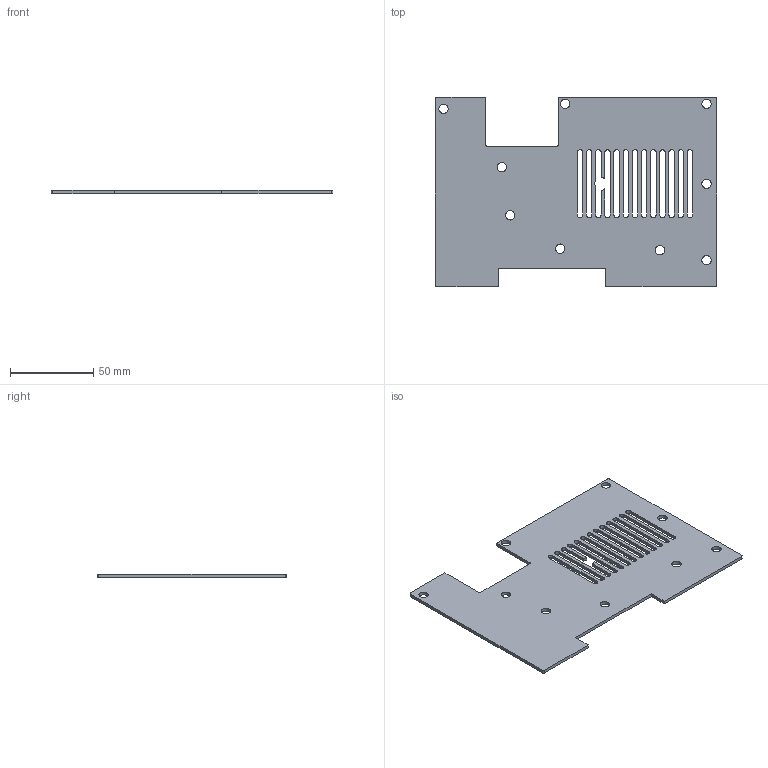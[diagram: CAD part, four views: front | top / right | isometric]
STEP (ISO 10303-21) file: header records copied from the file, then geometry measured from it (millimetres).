
FILE_DESCRIPTION(('Open CASCADE Model'),'2;1');
FILE_NAME('Open CASCADE Shape Model','2026-11-10T13:03:27',('Author'),( 'Open CASCADE'),'Open CASCADE STEP processor 7.7','Open CASCADE 7.7' ,'Unknown');
FILE_SCHEMA(('AUTOMOTIVE_DESIGN { 1 0 10303 214 1 1 1 1 }'));
Length unit declared in the file: millimetre
Products named in the file (1): Open CASCADE STEP translator 7.7 4
Bounding box: 169.3 x 113.95 x 2 mm (x, y, z)
Volume: 30676.9 mm3; surface area: 34487 mm2
Topology: 1 solids, 1 shells, 139 faces, 411 edges, 274 vertices
Faces by surface type: cylinder 70, plane 69
Full cylindrical faces by diameter (mm): 5.6 x9
Entity records: 9940 total; most frequent: CARTESIAN_POINT 2063, DIRECTION 1367, ORIENTED_EDGE 822, PCURVE 822, DEFINITIONAL_REPRESENTATION 822, LINE 693, VECTOR 693, EDGE_CURVE 411
